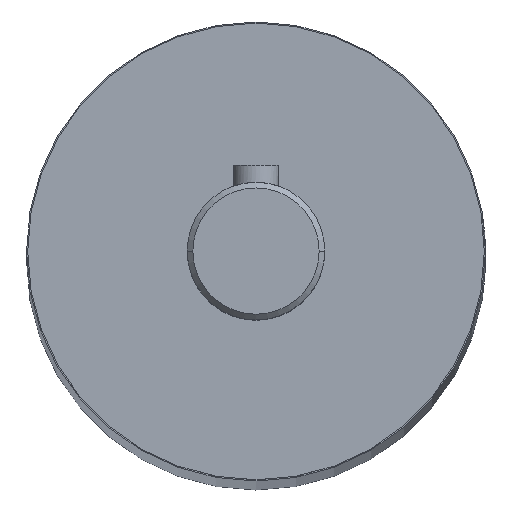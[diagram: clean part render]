
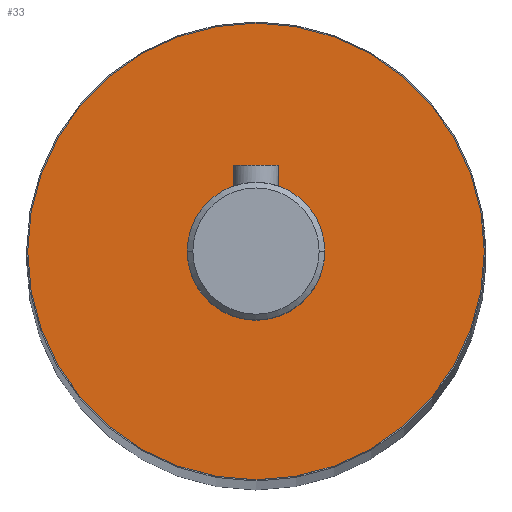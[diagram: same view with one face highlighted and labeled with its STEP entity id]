
A CAD part, top view. The second image highlights one B-rep face of the part: STEP entity #33.
In plain terms, the highlighted planar face has unit normal (0, 0, 1).
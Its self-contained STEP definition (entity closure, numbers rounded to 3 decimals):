
#33 = ADVANCED_FACE ( 'NONE', ( #1326, #132 ), #745, .T. ) ;
#64 = AXIS2_PLACEMENT_3D ( 'NONE', #623, #1209, #449 ) ;
#93 = CIRCLE ( 'NONE', #64, 6. ) ;
#132 = FACE_OUTER_BOUND ( 'NONE', #359, .T. ) ;
#165 = VERTEX_POINT ( 'NONE', #1241 ) ;
#176 = EDGE_CURVE ( 'NONE', #767, #1638, #1655, .T. ) ;
#227 = DIRECTION ( 'NONE',  ( 0., 0., 1. ) ) ;
#270 = AXIS2_PLACEMENT_3D ( 'NONE', #1119, #227, #1572 ) ;
#291 = CARTESIAN_POINT ( 'NONE',  ( 6., 0., 227.5 ) ) ;
#331 = CARTESIAN_POINT ( 'NONE',  ( -19.9, 0., 227.5 ) ) ;
#333 = DIRECTION ( 'NONE',  ( 1., 0., 0. ) ) ;
#355 = CIRCLE ( 'NONE', #1440, 6. ) ;
#359 = EDGE_LOOP ( 'NONE', ( #1613, #375 ) ) ;
#375 = ORIENTED_EDGE ( 'NONE', *, *, #176, .T. ) ;
#449 = DIRECTION ( 'NONE',  ( 1., 0., 0. ) ) ;
#482 = ORIENTED_EDGE ( 'NONE', *, *, #1132, .F. ) ;
#507 = CARTESIAN_POINT ( 'NONE',  ( 0., 0., 227.5 ) ) ;
#623 = CARTESIAN_POINT ( 'NONE',  ( 0., 0., 227.5 ) ) ;
#656 = AXIS2_PLACEMENT_3D ( 'NONE', #1087, #1540, #333 ) ;
#692 = VERTEX_POINT ( 'NONE', #291 ) ;
#745 = PLANE ( 'NONE',  #656 ) ;
#767 = VERTEX_POINT ( 'NONE', #801 ) ;
#794 = DIRECTION ( 'NONE',  ( 1., 0., 0. ) ) ;
#801 = CARTESIAN_POINT ( 'NONE',  ( 19.9, 0., 227.5 ) ) ;
#861 = DIRECTION ( 'NONE',  ( 1., 0., 0. ) ) ;
#1070 = EDGE_CURVE ( 'NONE', #165, #692, #93, .T. ) ;
#1087 = CARTESIAN_POINT ( 'NONE',  ( 0., 0., 227.5 ) ) ;
#1119 = CARTESIAN_POINT ( 'NONE',  ( 0., 0., 227.5 ) ) ;
#1132 = EDGE_CURVE ( 'NONE', #692, #165, #355, .T. ) ;
#1209 = DIRECTION ( 'NONE',  ( 0., 0., 1. ) ) ;
#1216 = EDGE_CURVE ( 'NONE', #1638, #767, #1761, .T. ) ;
#1241 = CARTESIAN_POINT ( 'NONE',  ( -6., 0., 227.5 ) ) ;
#1326 = FACE_BOUND ( 'NONE', #1758, .T. ) ;
#1342 = DIRECTION ( 'NONE',  ( 0., 0., 1. ) ) ;
#1399 = DIRECTION ( 'NONE',  ( 0., 0., 1. ) ) ;
#1440 = AXIS2_PLACEMENT_3D ( 'NONE', #1486, #1342, #861 ) ;
#1486 = CARTESIAN_POINT ( 'NONE',  ( 0., 0., 227.5 ) ) ;
#1540 = DIRECTION ( 'NONE',  ( 0., 0., 1. ) ) ;
#1572 = DIRECTION ( 'NONE',  ( 1., 0., 0. ) ) ;
#1613 = ORIENTED_EDGE ( 'NONE', *, *, #1216, .T. ) ;
#1638 = VERTEX_POINT ( 'NONE', #331 ) ;
#1655 = CIRCLE ( 'NONE', #270, 19.9 ) ;
#1667 = ORIENTED_EDGE ( 'NONE', *, *, #1070, .F. ) ;
#1758 = EDGE_LOOP ( 'NONE', ( #1667, #482 ) ) ;
#1761 = CIRCLE ( 'NONE', #1896, 19.9 ) ;
#1896 = AXIS2_PLACEMENT_3D ( 'NONE', #507, #1399, #794 ) ;
